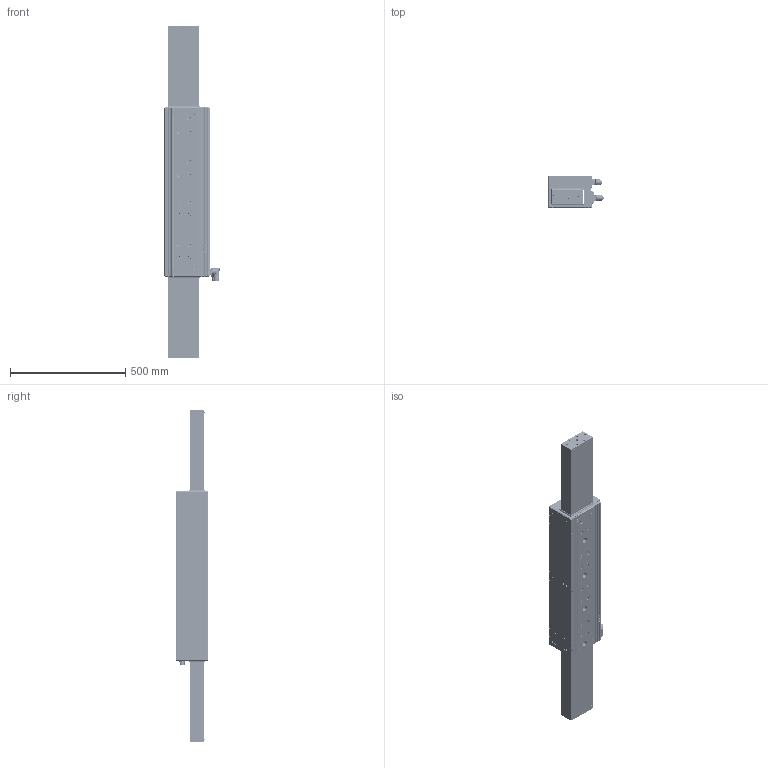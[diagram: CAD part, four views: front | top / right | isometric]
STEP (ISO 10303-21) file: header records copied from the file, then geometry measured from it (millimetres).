
FILE_DESCRIPTION((''),'2;1');
FILE_NAME('LDAT-100-DUMMY_ASM','2012-05-17T',('als'),('Rockwell Automation'),'PRO/ENGINEER BY PARAMETRIC TECHNOLOGY CORPORATION, 2007390','PRO/ENGINEER BY PARAMETRIC TECHNOLOGY CORPORATION, 2007390','');
FILE_SCHEMA(('CONFIG_CONTROL_DESIGN'));
Length unit declared in the file: millimetre
Products named in the file (34): B627631-100-A_AF4; D627756-100-600_ASM; D627768-100; D627769-100; B627834; D627739-100; LDAT-100-SLIDER-DUMMY-1400; B627686-100; A805843-1; A805843-2; A805843-4; A805843-3_ASM; A805843-5; A805843-6; A805843_ASM; A805844-1; A805844-2; A805844-3; A805844_ASM; B805901-E1-NT_ASM; DIN7991-12_9-8X22-ZP; 627795; 627815; DIN912-3X8; DIN912-2_5X12; 627849; DIN7991-12_9-5X30-ZP; DIN912-12X50; DIN912-10X16; B627690-100; ISO7380-3X6; DIN7991-10_9-5X30-ZP; DIN7991-10_9-8X22-ZP; LDAT-100-DUMMY_ASM
Assembly tree (107 placements, depth 4):
  LDAT-100-DUMMY_ASM
    D627756-100-600_ASM
      B627631-100-A_AF4
    D627768-100
    D627769-100
    B627834
    D627739-100  x2
    LDAT-100-SLIDER-DUMMY-1400
    B627686-100  x2
    A805843_ASM
      A805843-1
      A805843-2
      A805843-3_ASM
        A805843-4
      A805843-5  x4
      A805843-6  x2
    B805901-E1-NT_ASM
      A805844_ASM
        A805844-1
        A805844-2
        A805844-3
    DIN7991-12_9-8X22-ZP  x12
    627795  x4
    627815  x3
    DIN912-3X8  x14
    DIN912-2_5X12  x8
    627849  x6
    DIN7991-12_9-5X30-ZP  x6
    DIN912-12X50  x4
    DIN912-10X16  x2
    B627690-100  x2
    ISO7380-3X6  x6
    DIN7991-10_9-5X30-ZP  x10
    DIN7991-10_9-8X22-ZP  x4
Bounding box: 239.05 x 140 x 1438.1 mm (x, y, z)
Volume: 19765944.8 mm3; surface area: 2005176.5 mm2
Topology: 102 solids, 117 shells, 6723 faces, 18301 edges, 11923 vertices
Faces by surface type: cylinder 2670, plane 1884, bspline 834, cone 671, torus 542, sphere 117, extrusion 3, revolution 2
Entity records: 242052 total; most frequent: CARTESIAN_POINT 120637, ORIENTED_EDGE 27466, DIRECTION 22739, EDGE_CURVE 13758, AXIS2_PLACEMENT_3D 9271, VERTEX_POINT 9127, EDGE_LOOP 5275, CIRCLE 5079
